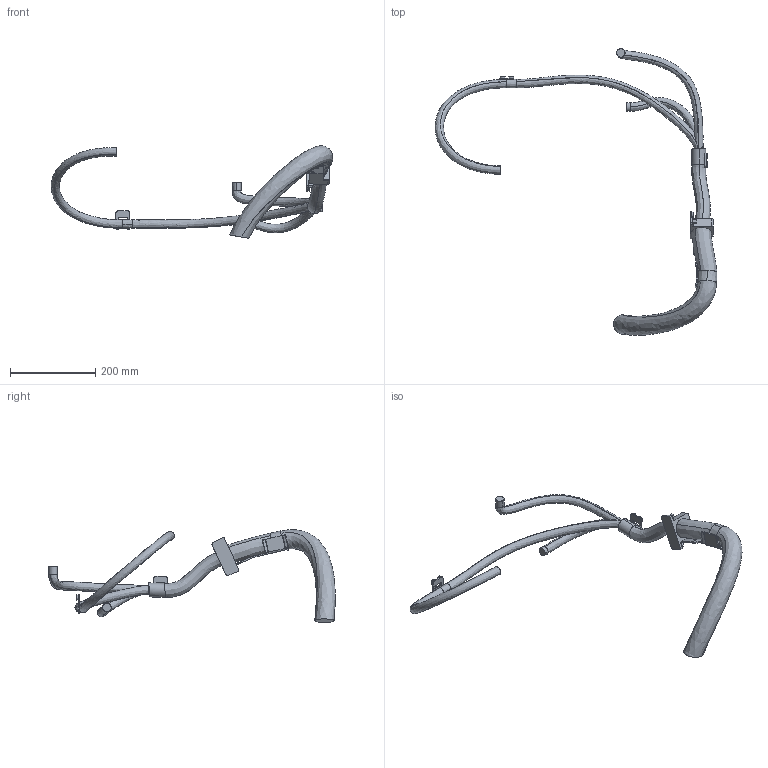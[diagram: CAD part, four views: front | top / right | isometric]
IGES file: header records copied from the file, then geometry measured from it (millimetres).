
Start section: SolidWorks IGES file using analytic representation for surfaces
Global section: file name: C:\Data\SAP_DOC\IRB6740_lightweight\6740_ASM\IRB6740_310kg-280_OC_02_SW_J\IRB6740_310kg-280_OC_02_IGES_J\IRB6740_310kg-280_OC_00_LINK03m_CABLE.igs; native system: SolidWorks 2024; preprocessor: SolidWorks 2024; author: SEJAOLS6; date: 260506.155142; units: millimetre
Bounding box: 661.08 x 672.61 x 217.55 mm (x, y, z)
Surface area: 208450.2 mm2 (no closed solid volume)
Topology: 0 solids, 0 shells, 214 faces, 3032 edges, 3028 vertices
Faces by surface type: bspline 134, revolution 80
